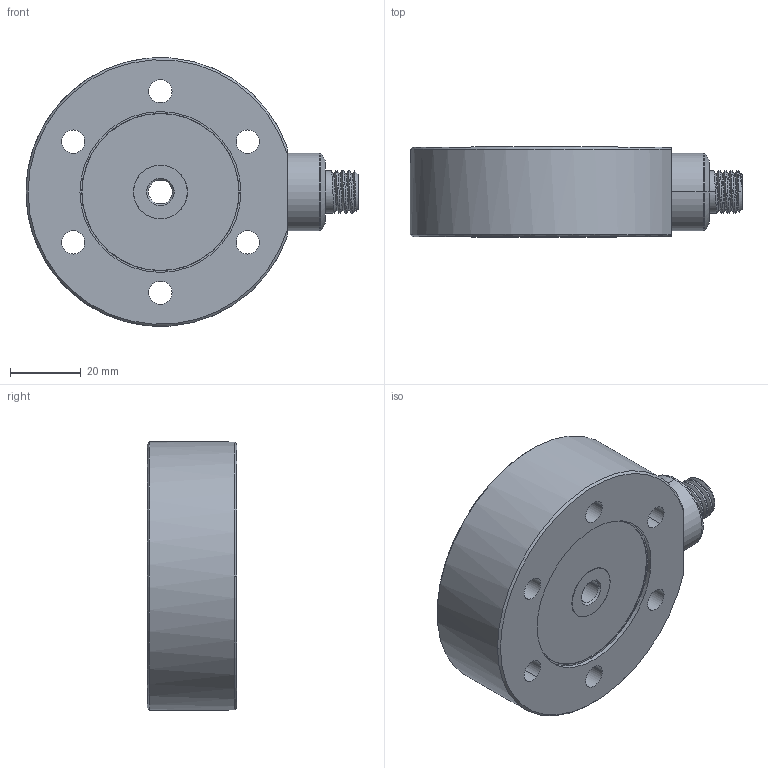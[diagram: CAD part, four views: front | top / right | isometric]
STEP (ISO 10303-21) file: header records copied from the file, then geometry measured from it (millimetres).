
FILE_DESCRIPTION (( 'STEP AP214' ), '1' );
FILE_NAME ('CLP 200N & 500N.STEP', '2016-10-10T10:44:16', ( '' ), ( '' ), 'SwSTEP 2.0', 'SolidWorks 2011', '' );
FILE_SCHEMA (( 'AUTOMOTIVE_DESIGN' ));
Length unit declared in the file: millimetre
Products named in the file (8): ISO 4762 M2 x 8 --- 8N_ISO 4762 M2 x 8 --- 8N; MMACH-A005647; MMACH-A005646; Copy of dcellcan^AN1016,17,18,19 & 20_??; Copy of M12 Weld Connector^AN1016,17,18,19 & 20; MMACH-A005642; MMACH-A005641; CLP 200N & 500N
Assembly tree (8 placements, depth 2):
  CLP 200N & 500N
    MMACH-A005642  x2
    ISO 4762 M2 x 8 --- 8N_ISO 4762 M2 x 8 --- 8N
    MMACH-A005641
    Copy of M12 Weld Connector^AN1016,17,18,19 & 20
    MMACH-A005647
    MMACH-A005646
    Copy of dcellcan^AN1016,17,18,19 & 20_??
Bounding box: 94.1 x 25.4 x 76.12 mm (x, y, z)
Volume: 102362.3 mm3; surface area: 32342.8 mm2
Topology: 87 solids, 87 shells, 5168 faces, 13879 edges, 9232 vertices
Faces by surface type: plane 4033, cylinder 1013, bspline 59, torus 42, cone 21
Entity records: 220084 total; most frequent: CARTESIAN_POINT 32590, ORIENTED_EDGE 27730, DIRECTION 26107, EDGE_CURVE 13865, VECTOR 11533, LINE 11533, VERTEX_POINT 9224, AXIS2_PLACEMENT_3D 7287
